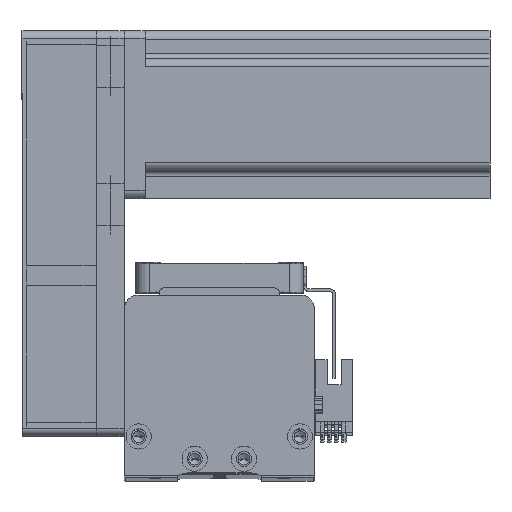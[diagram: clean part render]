
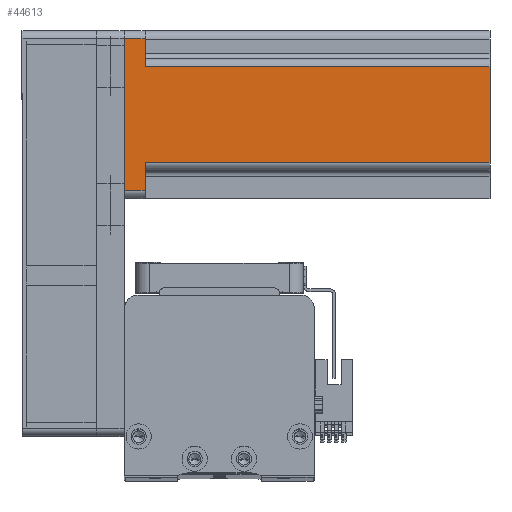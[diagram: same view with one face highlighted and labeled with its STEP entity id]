
A CAD part, top view. The second image highlights one B-rep face of the part: STEP entity #44613.
In plain terms, the highlighted planar face has unit normal (0, 0, 1) as drawn and (0, 1, 0) by its records, which use the part's own axes.
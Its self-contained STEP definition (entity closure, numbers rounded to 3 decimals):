
#15 = VECTOR ( 'NONE', #33071, 1000. ) ;
#1105 = CARTESIAN_POINT ( 'NONE',  ( 30., 30., 0. ) ) ;
#1165 = VERTEX_POINT ( 'NONE', #19923 ) ;
#1230 = VERTEX_POINT ( 'NONE', #9644 ) ;
#1824 = CARTESIAN_POINT ( 'NONE',  ( 17., 30., 130.7 ) ) ;
#1985 = CARTESIAN_POINT ( 'NONE',  ( -17., 30., 130.7 ) ) ;
#2403 = VECTOR ( 'NONE', #36032, 1000. ) ;
#3433 = VERTEX_POINT ( 'NONE', #38339 ) ;
#3900 = DIRECTION ( 'NONE',  ( 0., 0., 1. ) ) ;
#4026 = FACE_OUTER_BOUND ( 'NONE', #34251, .T. ) ;
#4853 = LINE ( 'NONE', #1105, #13033 ) ;
#5971 = VECTOR ( 'NONE', #3900, 1000. ) ;
#6877 = AXIS2_PLACEMENT_3D ( 'NONE', #12283, #36778, #15813 ) ;
#7012 = EDGE_CURVE ( 'NONE', #1230, #1165, #43887, .T. ) ;
#7107 = VERTEX_POINT ( 'NONE', #26491 ) ;
#7432 = EDGE_CURVE ( 'NONE', #21549, #28809, #20960, .T. ) ;
#7724 = ORIENTED_EDGE ( 'NONE', *, *, #7432, .T. ) ;
#8187 = VERTEX_POINT ( 'NONE', #1985 ) ;
#8753 = LINE ( 'NONE', #18502, #44818 ) ;
#8817 = DIRECTION ( 'NONE',  ( 0., 0., -1. ) ) ;
#9644 = CARTESIAN_POINT ( 'NONE',  ( 17., 30., 130.7 ) ) ;
#10260 = VECTOR ( 'NONE', #42883, 1000. ) ;
#11176 = CARTESIAN_POINT ( 'NONE',  ( -27., 30., 0. ) ) ;
#11621 = DIRECTION ( 'NONE',  ( -1., 0., 0. ) ) ;
#12110 = CARTESIAN_POINT ( 'NONE',  ( 20., 30., 7.5 ) ) ;
#12283 = CARTESIAN_POINT ( 'NONE',  ( 30., 30., 130.7 ) ) ;
#12522 = VECTOR ( 'NONE', #13474, 1000. ) ;
#13033 = VECTOR ( 'NONE', #11621, 1000. ) ;
#13474 = DIRECTION ( 'NONE',  ( -1., 0., 0. ) ) ;
#14171 = EDGE_CURVE ( 'NONE', #28334, #21549, #4853, .T. ) ;
#14954 = VECTOR ( 'NONE', #8817, 1000. ) ;
#15813 = DIRECTION ( 'NONE',  ( 1., 0., 0. ) ) ;
#16515 = EDGE_CURVE ( 'NONE', #1230, #8187, #31108, .T. ) ;
#16976 = ORIENTED_EDGE ( 'NONE', *, *, #31127, .T. ) ;
#18502 = CARTESIAN_POINT ( 'NONE',  ( -20., 30., 7.5 ) ) ;
#18658 = DIRECTION ( 'NONE',  ( 1., 0., 0. ) ) ;
#19190 = EDGE_CURVE ( 'NONE', #7107, #1165, #36094, .T. ) ;
#19520 = LINE ( 'NONE', #35935, #10260 ) ;
#19923 = CARTESIAN_POINT ( 'NONE',  ( 17., 30., 7.5 ) ) ;
#20960 = LINE ( 'NONE', #39515, #2403 ) ;
#21221 = ORIENTED_EDGE ( 'NONE', *, *, #19190, .F. ) ;
#21261 = CARTESIAN_POINT ( 'NONE',  ( -27., 30., 7.5 ) ) ;
#21549 = VERTEX_POINT ( 'NONE', #11176 ) ;
#22288 = LINE ( 'NONE', #35390, #5971 ) ;
#22523 = ORIENTED_EDGE ( 'NONE', *, *, #35752, .T. ) ;
#24074 = ORIENTED_EDGE ( 'NONE', *, *, #16515, .F. ) ;
#26491 = CARTESIAN_POINT ( 'NONE',  ( 27., 30., 7.5 ) ) ;
#28334 = VERTEX_POINT ( 'NONE', #32123 ) ;
#28809 = VERTEX_POINT ( 'NONE', #21261 ) ;
#29380 = ORIENTED_EDGE ( 'NONE', *, *, #42891, .T. ) ;
#31108 = LINE ( 'NONE', #34413, #12522 ) ;
#31127 = EDGE_CURVE ( 'NONE', #28809, #3433, #8753, .T. ) ;
#32123 = CARTESIAN_POINT ( 'NONE',  ( 27., 30., 0. ) ) ;
#32375 = ORIENTED_EDGE ( 'NONE', *, *, #7012, .T. ) ;
#33071 = DIRECTION ( 'NONE',  ( -1., 0., 0. ) ) ;
#34251 = EDGE_LOOP ( 'NONE', ( #16976, #29380, #24074, #32375, #21221, #22523, #38009, #7724 ) ) ;
#34413 = CARTESIAN_POINT ( 'NONE',  ( 30., 30., 130.7 ) ) ;
#35390 = CARTESIAN_POINT ( 'NONE',  ( -17., 30., 130.7 ) ) ;
#35752 = EDGE_CURVE ( 'NONE', #7107, #28334, #19520, .T. ) ;
#35935 = CARTESIAN_POINT ( 'NONE',  ( 27., 30., 130.7 ) ) ;
#36032 = DIRECTION ( 'NONE',  ( 0., 0., 1. ) ) ;
#36094 = LINE ( 'NONE', #12110, #15 ) ;
#36621 = PLANE ( 'NONE',  #6877 ) ;
#36778 = DIRECTION ( 'NONE',  ( 0., -1., 0. ) ) ;
#38009 = ORIENTED_EDGE ( 'NONE', *, *, #14171, .T. ) ;
#38339 = CARTESIAN_POINT ( 'NONE',  ( -17., 30., 7.5 ) ) ;
#39515 = CARTESIAN_POINT ( 'NONE',  ( -27., 30., 130.7 ) ) ;
#42883 = DIRECTION ( 'NONE',  ( 0., 0., -1. ) ) ;
#42891 = EDGE_CURVE ( 'NONE', #3433, #8187, #22288, .T. ) ;
#43887 = LINE ( 'NONE', #1824, #14954 ) ;
#44613 = ADVANCED_FACE ( 'NONE', ( #4026 ), #36621, .F. ) ;
#44818 = VECTOR ( 'NONE', #18658, 1000. ) ;
